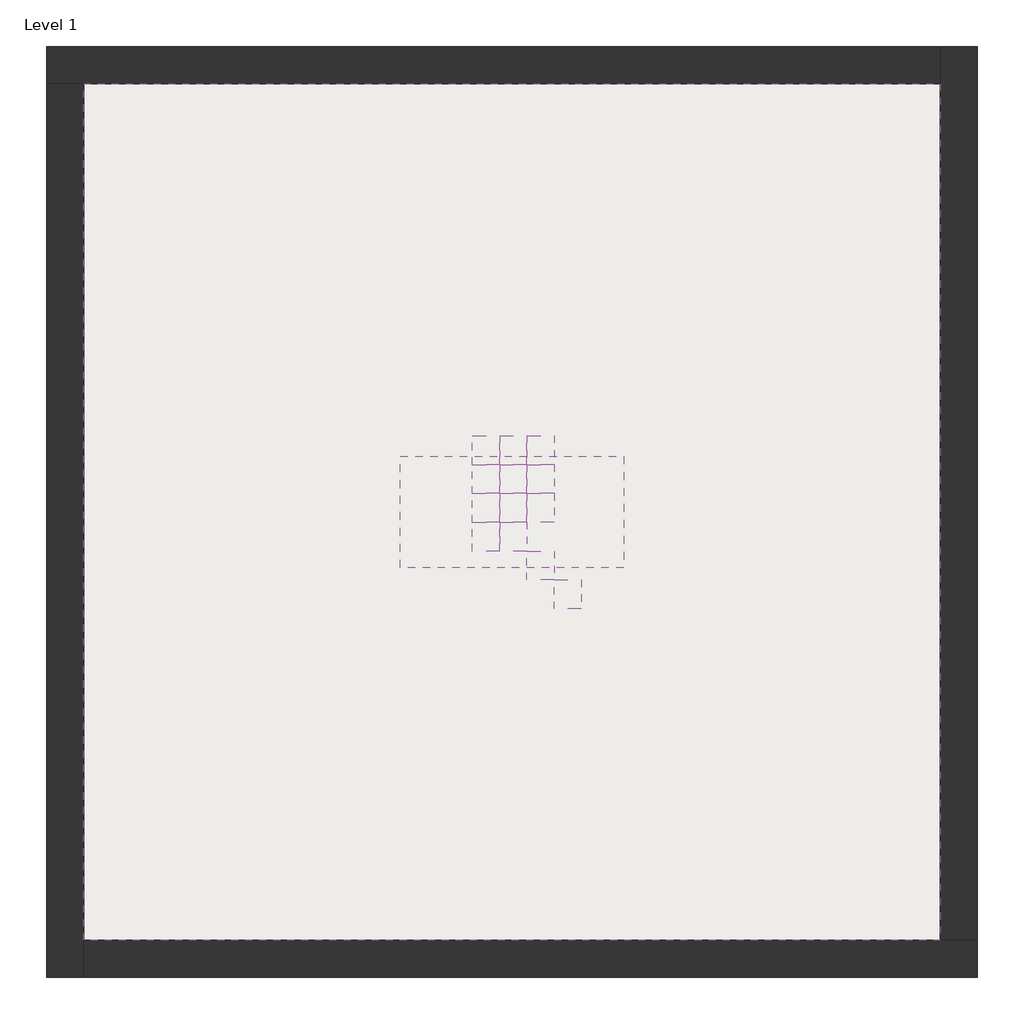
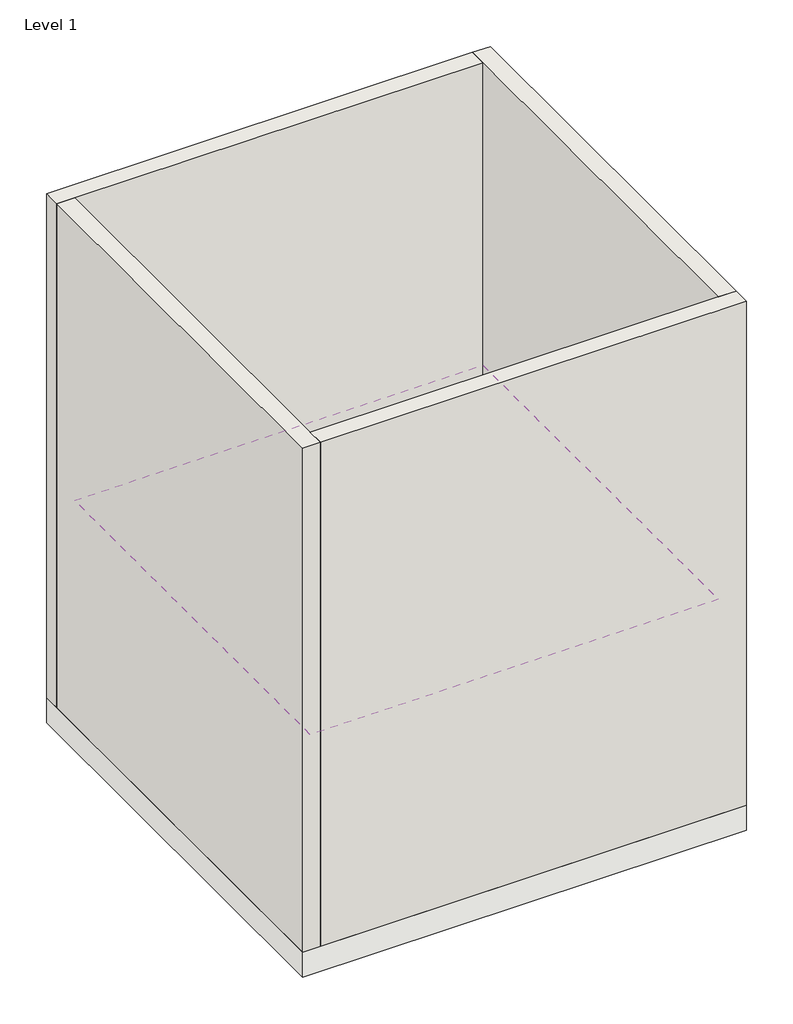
# One storey, incomplete: 13 proxies, 4 walls, 1 covering, 1 light fixture, 1 slab.
"""IFC4 building model written with IfcOpenShell, lengths in millimetres."""

from ifc_helpers import new_model, si_unit, frame, origin, place, context, project, spatial, polyline, outline, extrude, faceted_brep, transform, mapped, element, save
from components import elumtools_calc_points_daylight_factor_elumtools_calc_points_47fc0e64, elumtools_calc_points_illuminance_elumtools_calc_points_8f992433, box_recessed_elumtools_2_x_4_down_be8cfc00

model = new_model("IFC4")

# Units and contexts
model_context = context("Model", 3, world=origin())
ifc_project = project(units=[si_unit("LENGTHUNIT", "METRE", prefix="MILLI")], contexts=[model_context])

# Site, building, storey
site = spatial("IfcSite", under=ifc_project)
building = spatial("IfcBuilding", under=site)
storey = spatial("IfcBuildingStorey", under=building, Name="Level 1", Elevation=0.0)

# Proxies
placement = place(None, origin())
elumtools_calc_points_daylight_factor_elumtools_calc_points_shape = elumtools_calc_points_daylight_factor_elumtools_calc_points_47fc0e64(model_context)
element("IfcBuildingElementProxy", 1, Name="ElumTools Calc Points, Horticulture : ElumTools Calc Points, Horticulture", ObjectType="ElumTools Calc Points, Horticulture : ElumTools Calc Points, Horticulture", at=placement, inside=storey, context=model_context, shape_type="MappedRepresentation", body=[
    mapped(elumtools_calc_points_daylight_factor_elumtools_calc_points_shape, transform((-9187.0190158, 396.3881476, 2209.8), x_axis=(1.0, 0.0, 0.0), y_axis=(0.0, 1.0, 0.0), z_axis=(0.0, 0.0, 1.0))),
])
element("IfcBuildingElementProxy", 2, Name="ElumTools Calc Points, Daylight Factor : ElumTools Calc Points, Daylight Factor", ObjectType="ElumTools Calc Points, Daylight Factor : ElumTools Calc Points, Daylight Factor", at=placement, inside=storey, context=model_context, shape_type="MappedRepresentation", body=[
    mapped(elumtools_calc_points_daylight_factor_elumtools_calc_points_shape, transform((-9335.7613326, 553.8640796, 2209.8), x_axis=(1.0, 0.0, 0.0), y_axis=(0.0, 1.0, 0.0), z_axis=(0.0, 0.0, 1.0))),
])
element("IfcBuildingElementProxy", 3, Name="ElumTools Calc Points, Exitance : ElumTools Calc Points, Exitance", ObjectType="ElumTools Calc Points, Exitance : ElumTools Calc Points, Exitance", at=placement, inside=storey, context=model_context, shape_type="MappedRepresentation", body=[
    mapped(elumtools_calc_points_daylight_factor_elumtools_calc_points_shape, transform((-9633.2459663, 1026.2918757, 2209.8), x_axis=(1.0, 0.0, 0.0), y_axis=(0.0, 1.0, 0.0), z_axis=(0.0, 0.0, 1.0))),
])
element("IfcBuildingElementProxy", 4, Name="ElumTools Calc Points, Exitance : ElumTools Calc Points, Exitance", ObjectType="ElumTools Calc Points, Exitance : ElumTools Calc Points, Exitance", at=placement, inside=storey, context=model_context, shape_type="MappedRepresentation", body=[
    mapped(elumtools_calc_points_daylight_factor_elumtools_calc_points_shape, transform((-9484.5036494, 1026.2918757, 2209.8), x_axis=(1.0, 0.0, 0.0), y_axis=(0.0, 1.0, 0.0), z_axis=(0.0, 0.0, 1.0))),
])
element("IfcBuildingElementProxy", 5, Name="ElumTools Calc Points, Exitance : ElumTools Calc Points, Exitance", ObjectType="ElumTools Calc Points, Exitance : ElumTools Calc Points, Exitance", at=placement, inside=storey, context=model_context, shape_type="MappedRepresentation", body=[
    mapped(elumtools_calc_points_daylight_factor_elumtools_calc_points_shape, transform((-9335.7613326, 1026.2918757, 2209.8), x_axis=(1.0, 0.0, 0.0), y_axis=(0.0, 1.0, 0.0), z_axis=(0.0, 0.0, 1.0))),
])
elumtools_calc_points_illuminance_elumtools_calc_points_shape = elumtools_calc_points_illuminance_elumtools_calc_points_8f992433(model_context)
element("IfcBuildingElementProxy", 6, Name="ElumTools Calc Points, Illuminance : ElumTools Calc Points, Illuminance", ObjectType="ElumTools Calc Points, Illuminance : ElumTools Calc Points, Illuminance", at=placement, inside=storey, context=model_context, shape_type="MappedRepresentation", body=[
    mapped(elumtools_calc_points_illuminance_elumtools_calc_points_shape, transform((-9633.2459663, 1183.7678077, 2209.8), x_axis=(1.0, 0.0, 0.0), y_axis=(0.0, 1.0, 0.0), z_axis=(0.0, 0.0, 1.0))),
])
element("IfcBuildingElementProxy", 7, Name="ElumTools Calc Points, Illuminance : ElumTools Calc Points, Illuminance", ObjectType="ElumTools Calc Points, Illuminance : ElumTools Calc Points, Illuminance", at=placement, inside=storey, context=model_context, shape_type="MappedRepresentation", body=[
    mapped(elumtools_calc_points_illuminance_elumtools_calc_points_shape, transform((-9484.5036494, 1183.7678077, 2209.8), x_axis=(1.0, 0.0, 0.0), y_axis=(0.0, 1.0, 0.0), z_axis=(0.0, 0.0, 1.0))),
])
element("IfcBuildingElementProxy", 8, Name="ElumTools Calc Points, Illuminance : ElumTools Calc Points, Illuminance", ObjectType="ElumTools Calc Points, Illuminance : ElumTools Calc Points, Illuminance", at=placement, inside=storey, context=model_context, shape_type="MappedRepresentation", body=[
    mapped(elumtools_calc_points_illuminance_elumtools_calc_points_shape, transform((-9335.7613326, 1183.7678077, 2209.8), x_axis=(1.0, 0.0, 0.0), y_axis=(0.0, 1.0, 0.0), z_axis=(0.0, 0.0, 1.0))),
])
element("IfcBuildingElementProxy", 9, Name="ElumTools Calc Points, Luminance : ElumTools Calc Points, Luminance", ObjectType="ElumTools Calc Points, Luminance : ElumTools Calc Points, Luminance", at=placement, inside=storey, context=model_context, shape_type="MappedRepresentation", body=[
    mapped(elumtools_calc_points_daylight_factor_elumtools_calc_points_shape, transform((-9633.2459663, 868.8159436, 2209.8), x_axis=(1.0, 0.0, 0.0), y_axis=(0.0, 1.0, 0.0), z_axis=(0.0, 0.0, 1.0))),
])
element("IfcBuildingElementProxy", 10, Name="ElumTools Calc Points, Luminance : ElumTools Calc Points, Luminance", ObjectType="ElumTools Calc Points, Luminance : ElumTools Calc Points, Luminance", at=placement, inside=storey, context=model_context, shape_type="MappedRepresentation", body=[
    mapped(elumtools_calc_points_daylight_factor_elumtools_calc_points_shape, transform((-9484.5036494, 868.8159436, 2209.8), x_axis=(1.0, 0.0, 0.0), y_axis=(0.0, 1.0, 0.0), z_axis=(0.0, 0.0, 1.0))),
])
element("IfcBuildingElementProxy", 11, Name="ElumTools Calc Points, Luminance : ElumTools Calc Points, Luminance", ObjectType="ElumTools Calc Points, Luminance : ElumTools Calc Points, Luminance", at=placement, inside=storey, context=model_context, shape_type="MappedRepresentation", body=[
    mapped(elumtools_calc_points_daylight_factor_elumtools_calc_points_shape, transform((-9335.7613326, 868.8159436, 2209.8), x_axis=(1.0, 0.0, 0.0), y_axis=(0.0, 1.0, 0.0), z_axis=(0.0, 0.0, 1.0))),
])
element("IfcBuildingElementProxy", 12, Name="ElumTools Calc Points, Unified Glare Rating : ElumTools Calc Points, Unified Glare Rating", ObjectType="ElumTools Calc Points, Unified Glare Rating : ElumTools Calc Points, Unified Glare Rating", at=placement, inside=storey, context=model_context, shape_type="MappedRepresentation", body=[
    mapped(elumtools_calc_points_daylight_factor_elumtools_calc_points_shape, transform((-9484.5036494, 711.3400116, 2209.8), x_axis=(1.0, 0.0, 0.0), y_axis=(0.0, 1.0, 0.0), z_axis=(0.0, 0.0, 1.0))),
])
element("IfcBuildingElementProxy", 13, Name="ElumTools Calc Points, Unified Glare Rating : ElumTools Calc Points, Unified Glare Rating", ObjectType="ElumTools Calc Points, Unified Glare Rating : ElumTools Calc Points, Unified Glare Rating", at=placement, inside=storey, context=model_context, shape_type="MappedRepresentation", body=[
    mapped(elumtools_calc_points_daylight_factor_elumtools_calc_points_shape, transform((-9633.2459663, 711.3400116, 2209.8), x_axis=(1.0, 0.0, 0.0), y_axis=(0.0, 1.0, 0.0), z_axis=(0.0, 0.0, 1.0))),
])

# Covering
element("IfcCovering", 14, ObjectType="2' x 4' ACT System", at=placement, inside=storey, context=model_context, shape_type="SweptSolid", body=[
    extrude(outline(polyline([(-11828.4462943, -1490.3057807), (-11828.4462943, 3183.2942193), (-7154.8462943, 3183.2942193), (-7154.8462943, -1490.3057807), (-11828.4462943, -1490.3057807)]), holes=[polyline([(-10101.2462943, 541.6942193), (-8882.0462943, 541.6942193), (-8882.0462943, 1151.2942193), (-10101.2462943, 1151.2942193), (-10101.2462943, 541.6942193)])]), frame((0.0, 0.0, 2438.4), z_axis=(0.0, 0.0, 1.0), x_axis=(1.0, 0.0, 0.0)), (0.0, 0.0, 1.0), 57.15),
])

# Light fixture
box_recessed_elumtools_2_x_4_down_shape = box_recessed_elumtools_2_x_4_down_be8cfc00(model_context)
element("IfcLightFixture", 15, ObjectType="Box Recessed ElumTools : 2'x 4' Down", at=placement, inside=storey, context=model_context, shape_type="MappedRepresentation", body=[
    mapped(box_recessed_elumtools_2_x_4_down_shape, transform((-9491.6462943, 846.4942193, 2438.4), x_axis=(1.0, 0.0, 0.0), y_axis=(0.0, -1.0, 0.0), z_axis=(0.0, 0.0, -1.0))),
])

# Slab
element("IfcSlab", 16, ObjectType="Generic - 12\"", at=placement, inside=storey, context=model_context, shape_type="SweptSolid", body=[
    extrude(outline(polyline([(-6951.6462943, 3386.4942193), (-6951.6462943, -1693.5057807), (-12031.6462943, -1693.5057807), (-12031.6462943, 3386.4942193), (-6951.6462943, 3386.4942193)])), frame((0.0, 0.0, -304.8), z_axis=(0.0, 0.0, 1.0), x_axis=(1.0, 0.0, 0.0)), (0.0, 0.0, 1.0), 304.8),
])

# Walls
element("IfcWall", 17, ObjectType="Generic - 8\"", at=placement, inside=storey, context=model_context, shape_type="Brep", body=[
    faceted_brep([(-12031.6462943, 3183.2942193, 0.0), (-11828.4462943, 3183.2942193, 0.0), (-7154.8462943, 3183.2942193, 0.0), (-7154.8462943, 3183.2942193, 6096.0), (-11828.4462943, 3183.2942193, 6096.0), (-12031.6462943, 3183.2942193, 6096.0), (-12031.6462943, 3386.4942193, 0.0), (-12031.6462943, 3386.4942193, 6096.0), (-7154.8462943, 3386.4942193, 6096.0), (-7154.8462943, 3386.4942193, 0.0)], [[[0, 1, 2, 3, 4, 5]], [[6, 7, 8, 9]], [[2, 1, 0, 6, 9]], [[5, 4, 3, 8, 7]], [[0, 5, 7, 6]], [[3, 2, 9, 8]]]),
])
element("IfcWall", 18, ObjectType="Generic - 8\"", at=placement, inside=storey, context=model_context, shape_type="Brep", body=[
    faceted_brep([(-11828.4462943, -1693.5057807, 0.0), (-11828.4462943, -1490.3057807, 0.0), (-11828.4462943, 3183.2942193, 0.0), (-11828.4462943, 3183.2942193, 6096.0), (-11828.4462943, -1490.3057807, 6096.0), (-11828.4462943, -1693.5057807, 6096.0), (-12031.6462943, -1693.5057807, 0.0), (-12031.6462943, -1693.5057807, 6096.0), (-12031.6462943, 3183.2942193, 6096.0), (-12031.6462943, 3183.2942193, 0.0)], [[[0, 1, 2, 3, 4, 5]], [[6, 7, 8, 9]], [[2, 1, 0, 6, 9]], [[5, 4, 3, 8, 7]], [[0, 5, 7, 6]], [[3, 2, 9, 8]]]),
])
element("IfcWall", 19, ObjectType="Generic - 8\"", at=placement, inside=storey, context=model_context, shape_type="Brep", body=[
    faceted_brep([(-6951.6462943, -1490.3057807, 0.0), (-7154.8462943, -1490.3057807, 0.0), (-11828.4462943, -1490.3057807, 0.0), (-11828.4462943, -1490.3057807, 6096.0), (-7154.8462943, -1490.3057807, 6096.0), (-6951.6462943, -1490.3057807, 6096.0), (-6951.6462943, -1693.5057807, 0.0), (-6951.6462943, -1693.5057807, 6096.0), (-11828.4462943, -1693.5057807, 6096.0), (-11828.4462943, -1693.5057807, 0.0)], [[[0, 1, 2, 3, 4, 5]], [[6, 7, 8, 9]], [[2, 1, 0, 6, 9]], [[5, 4, 3, 8, 7]], [[0, 5, 7, 6]], [[3, 2, 9, 8]]]),
])
element("IfcWall", 20, ObjectType="Generic - 8\"", at=placement, inside=storey, context=model_context, shape_type="Brep", body=[
    faceted_brep([(-7154.8462943, 3386.4942193, 0.0), (-7154.8462943, 3183.2942193, 0.0), (-7154.8462943, -1490.3057807, 0.0), (-7154.8462943, -1490.3057807, 6096.0), (-7154.8462943, 3183.2942193, 6096.0), (-7154.8462943, 3386.4942193, 6096.0), (-6951.6462943, 3386.4942193, 0.0), (-6951.6462943, 3386.4942193, 6096.0), (-6951.6462943, -1490.3057807, 6096.0), (-6951.6462943, -1490.3057807, 0.0)], [[[0, 1, 2, 3, 4, 5]], [[6, 7, 8, 9]], [[2, 1, 0, 6, 9]], [[5, 4, 3, 8, 7]], [[0, 5, 7, 6]], [[3, 2, 9, 8]]]),
])

save(model, "model.ifc")
